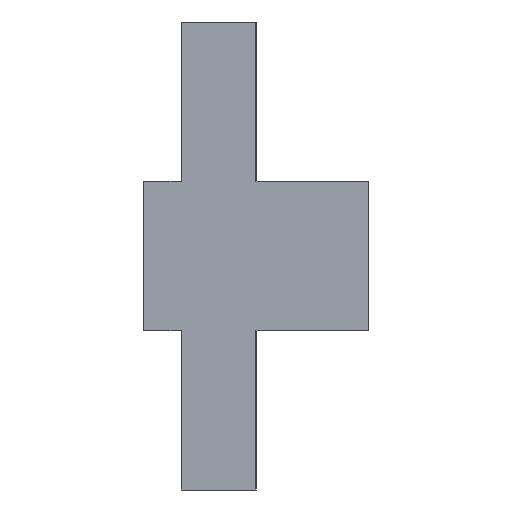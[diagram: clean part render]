
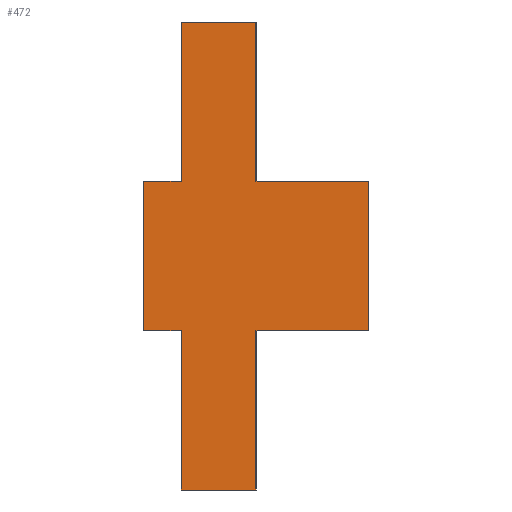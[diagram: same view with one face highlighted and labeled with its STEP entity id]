
A CAD part, left-side view. The second image highlights one B-rep face of the part: STEP entity #472.
In plain terms, the highlighted planar face has unit normal (-1, 0, 0).
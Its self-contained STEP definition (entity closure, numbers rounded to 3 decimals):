
#5 = EDGE_CURVE ( 'NONE', #302, #414, #480, .T. ) ;
#6 = ORIENTED_EDGE ( 'NONE', *, *, #401, .F. ) ;
#7 = CARTESIAN_POINT ( 'NONE',  ( -500., 24., 12.5 ) ) ;
#11 = EDGE_LOOP ( 'NONE', ( #6, #481, #305, #136, #37, #113, #44, #433, #152, #301, #239, #445 ) ) ;
#13 = DIRECTION ( 'NONE',  ( 0., 0., -1. ) ) ;
#18 = CARTESIAN_POINT ( 'NONE',  ( -500., 24., 4. ) ) ;
#33 = CARTESIAN_POINT ( 'NONE',  ( -500., 26., 4. ) ) ;
#37 = ORIENTED_EDGE ( 'NONE', *, *, #243, .F. ) ;
#44 = ORIENTED_EDGE ( 'NONE', *, *, #139, .F. ) ;
#50 = CARTESIAN_POINT ( 'NONE',  ( -500., 24., -4. ) ) ;
#53 = AXIS2_PLACEMENT_3D ( 'NONE', #474, #187, #13 ) ;
#57 = DIRECTION ( 'NONE',  ( 0., 0., -1. ) ) ;
#58 = LINE ( 'NONE', #7, #156 ) ;
#64 = VECTOR ( 'NONE', #352, 1000. ) ;
#78 = CARTESIAN_POINT ( 'NONE',  ( -500., 24., 4. ) ) ;
#79 = VECTOR ( 'NONE', #332, 1000. ) ;
#82 = CARTESIAN_POINT ( 'NONE',  ( -500., 14., 4. ) ) ;
#83 = CARTESIAN_POINT ( 'NONE',  ( -500., 14., -4. ) ) ;
#85 = CARTESIAN_POINT ( 'NONE',  ( -500., 24., -4. ) ) ;
#90 = EDGE_CURVE ( 'NONE', #414, #242, #382, .T. ) ;
#98 = VECTOR ( 'NONE', #275, 1000. ) ;
#99 = EDGE_CURVE ( 'NONE', #242, #249, #129, .T. ) ;
#109 = DIRECTION ( 'NONE',  ( 0., -1., 0. ) ) ;
#113 = ORIENTED_EDGE ( 'NONE', *, *, #133, .F. ) ;
#115 = CARTESIAN_POINT ( 'NONE',  ( -500., 20., 12.5 ) ) ;
#128 = CARTESIAN_POINT ( 'NONE',  ( -500., 26., 4. ) ) ;
#129 = LINE ( 'NONE', #18, #79 ) ;
#133 = EDGE_CURVE ( 'NONE', #466, #273, #230, .T. ) ;
#136 = ORIENTED_EDGE ( 'NONE', *, *, #186, .F. ) ;
#139 = EDGE_CURVE ( 'NONE', #149, #466, #473, .T. ) ;
#146 = EDGE_CURVE ( 'NONE', #438, #149, #296, .T. ) ;
#149 = VERTEX_POINT ( 'NONE', #267 ) ;
#152 = ORIENTED_EDGE ( 'NONE', *, *, #447, .F. ) ;
#156 = VECTOR ( 'NONE', #422, 1000. ) ;
#157 = CARTESIAN_POINT ( 'NONE',  ( -500., 20., -4. ) ) ;
#161 = CARTESIAN_POINT ( 'NONE',  ( -500., 20., 4. ) ) ;
#169 = LINE ( 'NONE', #497, #268 ) ;
#186 = EDGE_CURVE ( 'NONE', #326, #312, #284, .T. ) ;
#187 = DIRECTION ( 'NONE',  ( 1., 0., 0. ) ) ;
#190 = CARTESIAN_POINT ( 'NONE',  ( -500., 20., 12.5 ) ) ;
#194 = FACE_OUTER_BOUND ( 'NONE', #11, .T. ) ;
#216 = CARTESIAN_POINT ( 'NONE',  ( -500., 26., 4. ) ) ;
#223 = VECTOR ( 'NONE', #235, 1000. ) ;
#226 = DIRECTION ( 'NONE',  ( 0., 1., 0. ) ) ;
#230 = LINE ( 'NONE', #83, #427 ) ;
#231 = VECTOR ( 'NONE', #348, 1000. ) ;
#235 = DIRECTION ( 'NONE',  ( 0., 0., -1. ) ) ;
#236 = VECTOR ( 'NONE', #377, 1000. ) ;
#239 = ORIENTED_EDGE ( 'NONE', *, *, #90, .F. ) ;
#240 = CARTESIAN_POINT ( 'NONE',  ( -500., 20., -12.5 ) ) ;
#242 = VERTEX_POINT ( 'NONE', #78 ) ;
#243 = EDGE_CURVE ( 'NONE', #273, #326, #396, .T. ) ;
#249 = VERTEX_POINT ( 'NONE', #426 ) ;
#267 = CARTESIAN_POINT ( 'NONE',  ( -500., 20., 4. ) ) ;
#268 = VECTOR ( 'NONE', #379, 1000. ) ;
#273 = VERTEX_POINT ( 'NONE', #334 ) ;
#275 = DIRECTION ( 'NONE',  ( 0., 0., 1. ) ) ;
#283 = CARTESIAN_POINT ( 'NONE',  ( -500., 24., -12.5 ) ) ;
#284 = LINE ( 'NONE', #240, #236 ) ;
#296 = LINE ( 'NONE', #190, #223 ) ;
#301 = ORIENTED_EDGE ( 'NONE', *, *, #99, .F. ) ;
#302 = VERTEX_POINT ( 'NONE', #415 ) ;
#305 = ORIENTED_EDGE ( 'NONE', *, *, #373, .F. ) ;
#306 = VECTOR ( 'NONE', #109, 1000. ) ;
#309 = DIRECTION ( 'NONE',  ( 0., -1., 0. ) ) ;
#312 = VERTEX_POINT ( 'NONE', #418 ) ;
#326 = VERTEX_POINT ( 'NONE', #157 ) ;
#330 = LINE ( 'NONE', #50, #98 ) ;
#332 = DIRECTION ( 'NONE',  ( 0., 0., 1. ) ) ;
#334 = CARTESIAN_POINT ( 'NONE',  ( -500., 14., -4. ) ) ;
#348 = DIRECTION ( 'NONE',  ( 0., 0., 1. ) ) ;
#352 = DIRECTION ( 'NONE',  ( 0., 1., 0. ) ) ;
#358 = LINE ( 'NONE', #283, #64 ) ;
#373 = EDGE_CURVE ( 'NONE', #312, #425, #358, .T. ) ;
#375 = VECTOR ( 'NONE', #226, 1000. ) ;
#377 = DIRECTION ( 'NONE',  ( 0., 0., -1. ) ) ;
#379 = DIRECTION ( 'NONE',  ( 0., 1., 0. ) ) ;
#382 = LINE ( 'NONE', #128, #306 ) ;
#390 = PLANE ( 'NONE',  #53 ) ;
#396 = LINE ( 'NONE', #499, #375 ) ;
#401 = EDGE_CURVE ( 'NONE', #491, #302, #169, .T. ) ;
#414 = VERTEX_POINT ( 'NONE', #216 ) ;
#415 = CARTESIAN_POINT ( 'NONE',  ( -500., 26., -4. ) ) ;
#418 = CARTESIAN_POINT ( 'NONE',  ( -500., 20., -12.5 ) ) ;
#420 = VECTOR ( 'NONE', #309, 1000. ) ;
#422 = DIRECTION ( 'NONE',  ( 0., -1., 0. ) ) ;
#425 = VERTEX_POINT ( 'NONE', #501 ) ;
#426 = CARTESIAN_POINT ( 'NONE',  ( -500., 24., 12.5 ) ) ;
#427 = VECTOR ( 'NONE', #57, 1000. ) ;
#433 = ORIENTED_EDGE ( 'NONE', *, *, #146, .F. ) ;
#438 = VERTEX_POINT ( 'NONE', #115 ) ;
#445 = ORIENTED_EDGE ( 'NONE', *, *, #5, .F. ) ;
#447 = EDGE_CURVE ( 'NONE', #249, #438, #58, .T. ) ;
#466 = VERTEX_POINT ( 'NONE', #82 ) ;
#468 = EDGE_CURVE ( 'NONE', #425, #491, #330, .T. ) ;
#472 = ADVANCED_FACE ( 'NONE', ( #194 ), #390, .F. ) ;
#473 = LINE ( 'NONE', #161, #420 ) ;
#474 = CARTESIAN_POINT ( 'NONE',  ( -500., 0., 0. ) ) ;
#480 = LINE ( 'NONE', #33, #231 ) ;
#481 = ORIENTED_EDGE ( 'NONE', *, *, #468, .F. ) ;
#491 = VERTEX_POINT ( 'NONE', #85 ) ;
#497 = CARTESIAN_POINT ( 'NONE',  ( -500., 26., -4. ) ) ;
#499 = CARTESIAN_POINT ( 'NONE',  ( -500., 20., -4. ) ) ;
#501 = CARTESIAN_POINT ( 'NONE',  ( -500., 24., -12.5 ) ) ;
